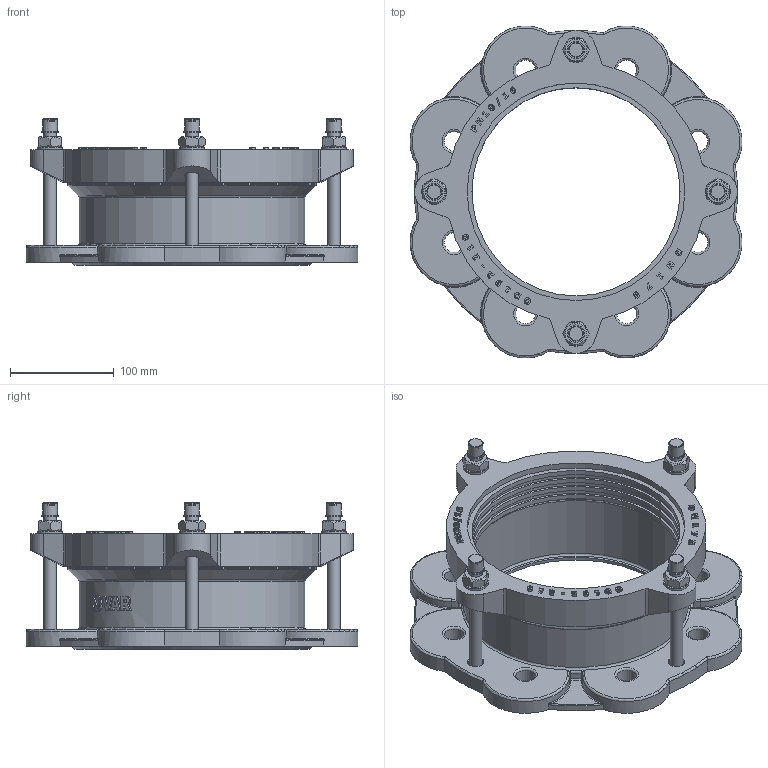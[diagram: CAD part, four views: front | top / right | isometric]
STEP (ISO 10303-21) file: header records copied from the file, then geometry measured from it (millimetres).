
FILE_DESCRIPTION(('STEP AP203'), '1');
FILE_NAME('Ôëàíöåâûé àäàïòåð', '', ('UNSPECIFIED'), ('UNSPECIFIED'), 'C3D Converter', 'C3D Toolkit', '');
FILE_SCHEMA(('CONFIG_CONTROL_DESIGN'));
Length unit declared in the file: millimetre
Assembly tree (19 placements, depth 2):
  (unnamed)
    (unnamed)
    (unnamed)  x4
    (unnamed)  x4
    (unnamed)  x4
    (unnamed)  x4
    (unnamed)
    (unnamed)
Bounding box: 320.52 x 320.52 x 141.2 mm (x, y, z)
Volume: 1625048.2 mm3; surface area: 439325.3 mm2
Topology: 19 solids, 19 shells, 990 faces, 2479 edges, 1536 vertices
Faces by surface type: plane 343, extrusion 286, cylinder 202, torus 71, bspline 36, cone 32, sphere 20
Full cylindrical faces by diameter (mm): 12 x12, 13 x4, 14 x8, 14.4 x4, 16.173 x1, 16.8 x4, 19 x8, 24 x4, 201 x5, 205.5 x3, 210 x2, 214 x1, 218 x2, 240 x1, 242 x2
Entity records: 38123 total; most frequent: CARTESIAN_POINT 14168, ORIENTED_EDGE 4228, DIRECTION 3296, EDGE_CURVE 2114, VERTEX_POINT 1380, VECTOR 1238, EDGE_LOOP 1040, AXIS2_PLACEMENT_3D 1029
